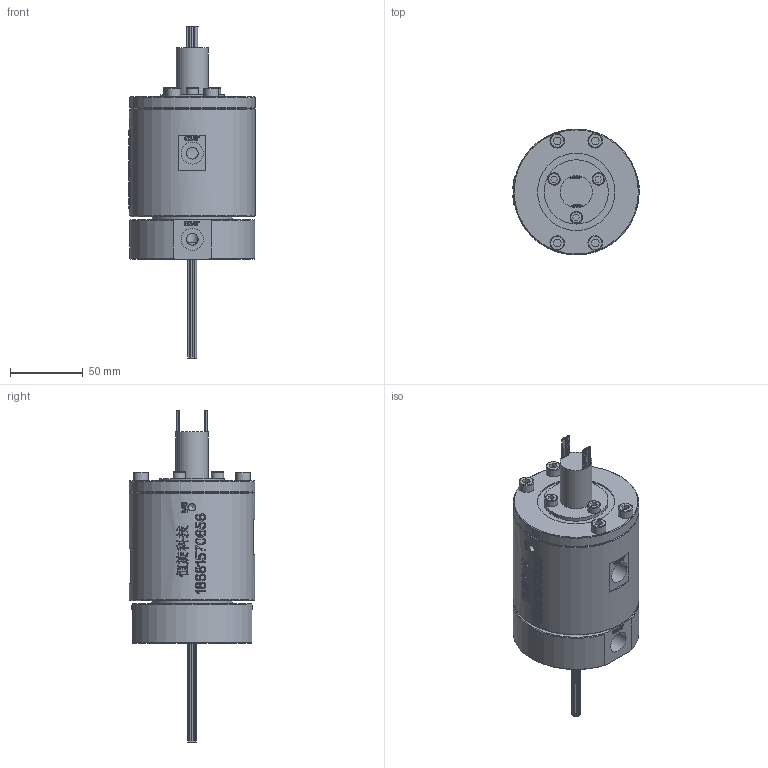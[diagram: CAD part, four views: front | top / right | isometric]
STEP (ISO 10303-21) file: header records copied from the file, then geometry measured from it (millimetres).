
FILE_DESCRIPTION(/* description */ (''),/* implementation_level */ '2;1');
FILE_NAME(/* name */ 'HQ0203-24M-3D模型.stp',/* time_stamp */ '2025-09-02T11:47:35+08:00',/* author */ (''),/* organization */ (''),/* preprocessor_version */ 'ST-DEVELOPER v16.7',/* originating_system */ 'SIEMENS PLM Software NX 12.0',/* authorisation */ '');
FILE_SCHEMA (('AUTOMOTIVE_DESIGN { 1 0 10303 214 3 1 1 1 }'));
Products named in the file (1): Admi1B40D54Exq3j
Bounding box: 86.52 x 86 x 227.4 mm (x, y, z)
Volume: 636562.2 mm3; surface area: 72944.6 mm2
Topology: 1 solids, 6 shells, 1428 faces, 3782 edges, 2526 vertices
Faces by surface type: extrusion 730, plane 497, cylinder 115, bspline 58, cone 21, torus 7
Full cylindrical faces by diameter (mm): 0.8 x48, 5 x9, 5.5 x3, 7.8 x1, 8 x6, 8.5 x3, 9.4 x2, 9.5 x2, 10 x4, 15 x4, 17 x1, 22 x1, 33 x1, 33.5 x2, 44 x2, 51 x1, 52 x1, 53 x1, 55 x1, 65 x1, 86 x2
Entity records: 52831 total; most frequent: CARTESIAN_POINT 23316, ORIENTED_EDGE 7200, EDGE_CURVE 3600, B_SPLINE_CURVE_WITH_KNOTS 3425, DIRECTION 3286, VERTEX_POINT 2473, EDGE_LOOP 1721, ADVANCED_FACE 1426
